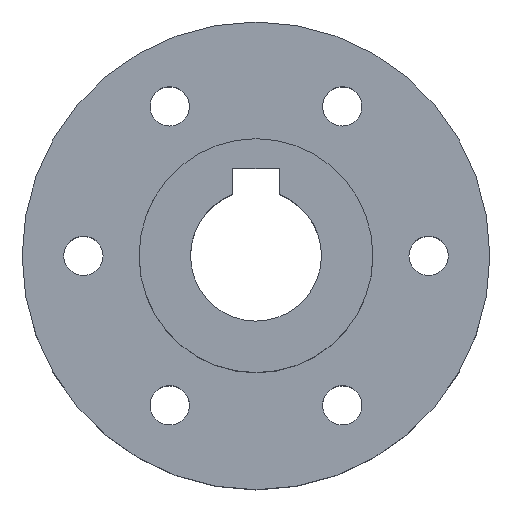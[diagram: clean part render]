
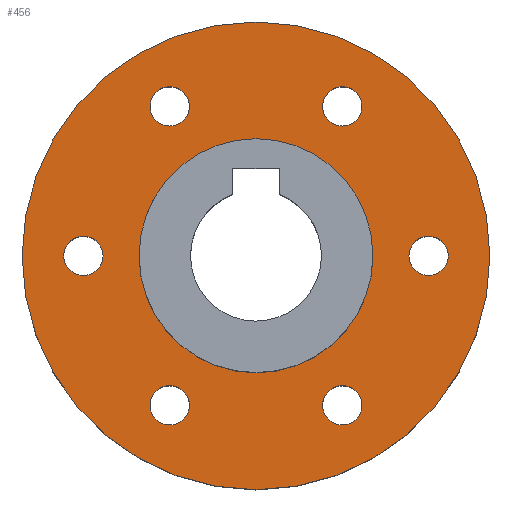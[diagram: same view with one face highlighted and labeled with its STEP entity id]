
A CAD part, top view. The second image highlights one B-rep face of the part: STEP entity #456.
In plain terms, the highlighted planar face has unit normal (0, 0, 1).
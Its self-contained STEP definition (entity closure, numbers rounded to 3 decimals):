
#291=CARTESIAN_POINT('',(0.,-76.,15.));
#292=DIRECTION('',(0.,0.,1.));
#293=DIRECTION('',(1.,0.,0.));
#294=AXIS2_PLACEMENT_3D('',#291,#292,#293);
#295=PLANE('',#294);
#296=CARTESIAN_POINT('',(25.,-76.,15.));
#297=VERTEX_POINT('',#296);
#298=CARTESIAN_POINT('',(-25.,-76.,15.));
#299=VERTEX_POINT('',#298);
#300=CARTESIAN_POINT('',(0.,-76.,15.));
#301=DIRECTION('',(0.,0.,1.));
#302=DIRECTION('',(1.,0.,-0.));
#303=AXIS2_PLACEMENT_3D('',#300,#301,#302);
#304=CIRCLE('',#303,25.);
#305=EDGE_CURVE('',#297,#299,#304,.T.);
#306=ORIENTED_EDGE('',*,*,#305,.T.);
#307=CARTESIAN_POINT('',(0.,-76.,15.));
#308=DIRECTION('',(0.,0.,1.));
#309=DIRECTION('',(1.,0.,-0.));
#310=AXIS2_PLACEMENT_3D('',#307,#308,#309);
#311=CIRCLE('',#310,25.);
#312=EDGE_CURVE('',#299,#297,#311,.T.);
#313=ORIENTED_EDGE('',*,*,#312,.T.);
#314=EDGE_LOOP('',(#306,#313));
#315=FACE_BOUND('',#314,.T.);
#316=CARTESIAN_POINT('',(-12.5,-76.,15.));
#317=VERTEX_POINT('',#316);
#318=CARTESIAN_POINT('',(12.5,-76.,15.));
#319=VERTEX_POINT('',#318);
#320=CARTESIAN_POINT('',(0.,-76.,15.));
#321=DIRECTION('',(0.,0.,1.));
#322=DIRECTION('',(1.,0.,-0.));
#323=AXIS2_PLACEMENT_3D('',#320,#321,#322);
#324=CIRCLE('',#323,12.5);
#325=EDGE_CURVE('',#317,#319,#324,.T.);
#326=ORIENTED_EDGE('',*,*,#325,.F.);
#327=CARTESIAN_POINT('',(0.,-76.,15.));
#328=DIRECTION('',(0.,0.,1.));
#329=DIRECTION('',(1.,0.,-0.));
#330=AXIS2_PLACEMENT_3D('',#327,#328,#329);
#331=CIRCLE('',#330,12.5);
#332=EDGE_CURVE('',#319,#317,#331,.T.);
#333=ORIENTED_EDGE('',*,*,#332,.F.);
#334=EDGE_LOOP('',(#326,#333));
#335=FACE_BOUND('',#334,.T.);
#336=CARTESIAN_POINT('',(-7.123,-60.025,15.));
#337=VERTEX_POINT('',#336);
#338=CARTESIAN_POINT('',(-11.323,-60.025,15.));
#339=VERTEX_POINT('',#338);
#340=CARTESIAN_POINT('',(-9.223,-60.025,15.));
#341=DIRECTION('',(-0.,-0.,-1.));
#342=DIRECTION('',(1.,0.,-0.));
#343=AXIS2_PLACEMENT_3D('',#340,#341,#342);
#344=CIRCLE('',#343,2.1);
#345=EDGE_CURVE('',#337,#339,#344,.T.);
#346=ORIENTED_EDGE('',*,*,#345,.T.);
#347=CARTESIAN_POINT('',(-9.223,-60.025,15.));
#348=DIRECTION('',(-0.,-0.,-1.));
#349=DIRECTION('',(1.,0.,-0.));
#350=AXIS2_PLACEMENT_3D('',#347,#348,#349);
#351=CIRCLE('',#350,2.1);
#352=EDGE_CURVE('',#339,#337,#351,.T.);
#353=ORIENTED_EDGE('',*,*,#352,.T.);
#354=EDGE_LOOP('',(#346,#353));
#355=FACE_BOUND('',#354,.T.);
#356=CARTESIAN_POINT('',(-16.346,-76.,15.));
#357=VERTEX_POINT('',#356);
#358=CARTESIAN_POINT('',(-20.546,-76.,15.));
#359=VERTEX_POINT('',#358);
#360=CARTESIAN_POINT('',(-18.446,-76.,15.));
#361=DIRECTION('',(-0.,-0.,-1.));
#362=DIRECTION('',(1.,0.,-0.));
#363=AXIS2_PLACEMENT_3D('',#360,#361,#362);
#364=CIRCLE('',#363,2.1);
#365=EDGE_CURVE('',#357,#359,#364,.T.);
#366=ORIENTED_EDGE('',*,*,#365,.T.);
#367=CARTESIAN_POINT('',(-18.446,-76.,15.));
#368=DIRECTION('',(-0.,-0.,-1.));
#369=DIRECTION('',(1.,0.,-0.));
#370=AXIS2_PLACEMENT_3D('',#367,#368,#369);
#371=CIRCLE('',#370,2.1);
#372=EDGE_CURVE('',#359,#357,#371,.T.);
#373=ORIENTED_EDGE('',*,*,#372,.T.);
#374=EDGE_LOOP('',(#366,#373));
#375=FACE_BOUND('',#374,.T.);
#376=CARTESIAN_POINT('',(11.323,-60.025,15.));
#377=VERTEX_POINT('',#376);
#378=CARTESIAN_POINT('',(7.123,-60.025,15.));
#379=VERTEX_POINT('',#378);
#380=CARTESIAN_POINT('',(9.223,-60.025,15.));
#381=DIRECTION('',(-0.,-0.,-1.));
#382=DIRECTION('',(1.,0.,-0.));
#383=AXIS2_PLACEMENT_3D('',#380,#381,#382);
#384=CIRCLE('',#383,2.1);
#385=EDGE_CURVE('',#377,#379,#384,.T.);
#386=ORIENTED_EDGE('',*,*,#385,.T.);
#387=CARTESIAN_POINT('',(9.223,-60.025,15.));
#388=DIRECTION('',(-0.,-0.,-1.));
#389=DIRECTION('',(1.,0.,-0.));
#390=AXIS2_PLACEMENT_3D('',#387,#388,#389);
#391=CIRCLE('',#390,2.1);
#392=EDGE_CURVE('',#379,#377,#391,.T.);
#393=ORIENTED_EDGE('',*,*,#392,.T.);
#394=EDGE_LOOP('',(#386,#393));
#395=FACE_BOUND('',#394,.T.);
#396=CARTESIAN_POINT('',(-7.123,-91.975,15.));
#397=VERTEX_POINT('',#396);
#398=CARTESIAN_POINT('',(-11.323,-91.975,15.));
#399=VERTEX_POINT('',#398);
#400=CARTESIAN_POINT('',(-9.223,-91.975,15.));
#401=DIRECTION('',(-0.,-0.,-1.));
#402=DIRECTION('',(1.,0.,-0.));
#403=AXIS2_PLACEMENT_3D('',#400,#401,#402);
#404=CIRCLE('',#403,2.1);
#405=EDGE_CURVE('',#397,#399,#404,.T.);
#406=ORIENTED_EDGE('',*,*,#405,.T.);
#407=CARTESIAN_POINT('',(-9.223,-91.975,15.));
#408=DIRECTION('',(-0.,-0.,-1.));
#409=DIRECTION('',(1.,0.,-0.));
#410=AXIS2_PLACEMENT_3D('',#407,#408,#409);
#411=CIRCLE('',#410,2.1);
#412=EDGE_CURVE('',#399,#397,#411,.T.);
#413=ORIENTED_EDGE('',*,*,#412,.T.);
#414=EDGE_LOOP('',(#406,#413));
#415=FACE_BOUND('',#414,.T.);
#416=CARTESIAN_POINT('',(11.323,-91.975,15.));
#417=VERTEX_POINT('',#416);
#418=CARTESIAN_POINT('',(7.123,-91.975,15.));
#419=VERTEX_POINT('',#418);
#420=CARTESIAN_POINT('',(9.223,-91.975,15.));
#421=DIRECTION('',(-0.,-0.,-1.));
#422=DIRECTION('',(1.,0.,-0.));
#423=AXIS2_PLACEMENT_3D('',#420,#421,#422);
#424=CIRCLE('',#423,2.1);
#425=EDGE_CURVE('',#417,#419,#424,.T.);
#426=ORIENTED_EDGE('',*,*,#425,.T.);
#427=CARTESIAN_POINT('',(9.223,-91.975,15.));
#428=DIRECTION('',(-0.,-0.,-1.));
#429=DIRECTION('',(1.,0.,-0.));
#430=AXIS2_PLACEMENT_3D('',#427,#428,#429);
#431=CIRCLE('',#430,2.1);
#432=EDGE_CURVE('',#419,#417,#431,.T.);
#433=ORIENTED_EDGE('',*,*,#432,.T.);
#434=EDGE_LOOP('',(#426,#433));
#435=FACE_BOUND('',#434,.T.);
#436=CARTESIAN_POINT('',(20.546,-76.,15.));
#437=VERTEX_POINT('',#436);
#438=CARTESIAN_POINT('',(16.346,-76.,15.));
#439=VERTEX_POINT('',#438);
#440=CARTESIAN_POINT('',(18.446,-76.,15.));
#441=DIRECTION('',(-0.,-0.,-1.));
#442=DIRECTION('',(1.,0.,-0.));
#443=AXIS2_PLACEMENT_3D('',#440,#441,#442);
#444=CIRCLE('',#443,2.1);
#445=EDGE_CURVE('',#437,#439,#444,.T.);
#446=ORIENTED_EDGE('',*,*,#445,.T.);
#447=CARTESIAN_POINT('',(18.446,-76.,15.));
#448=DIRECTION('',(-0.,-0.,-1.));
#449=DIRECTION('',(1.,0.,-0.));
#450=AXIS2_PLACEMENT_3D('',#447,#448,#449);
#451=CIRCLE('',#450,2.1);
#452=EDGE_CURVE('',#439,#437,#451,.T.);
#453=ORIENTED_EDGE('',*,*,#452,.T.);
#454=EDGE_LOOP('',(#446,#453));
#455=FACE_BOUND('',#454,.T.);
#456=ADVANCED_FACE('',(#315,#335,#355,#375,#395,#415,#435,#455),#295,.T.);
